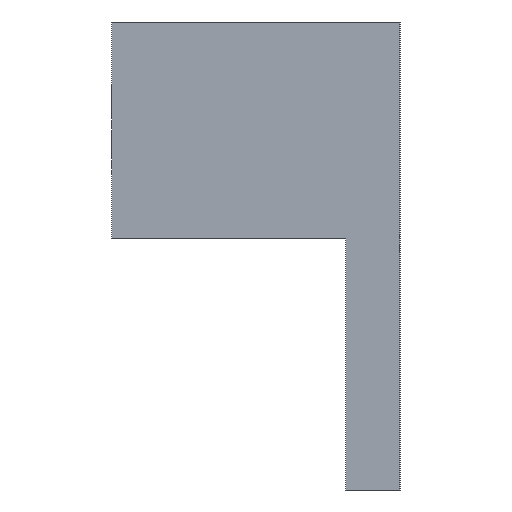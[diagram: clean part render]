
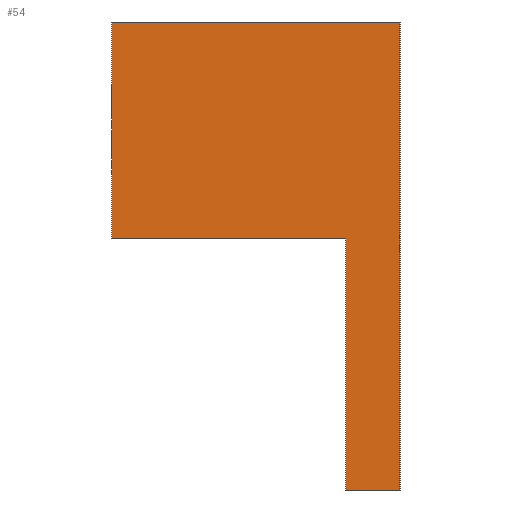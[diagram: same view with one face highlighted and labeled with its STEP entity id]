
A CAD part, left-side view. The second image highlights one B-rep face of the part: STEP entity #54.
In plain terms, the highlighted planar face has unit normal (-1, 0, 0).
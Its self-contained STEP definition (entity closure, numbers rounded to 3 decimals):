
#54 = ADVANCED_FACE( '', ( #108 ), #109, .F. );
#108 = FACE_OUTER_BOUND( '', #155, .T. );
#109 = PLANE( '', #156 );
#155 = EDGE_LOOP( '', ( #232, #233, #234, #235, #236, #237 ) );
#156 = AXIS2_PLACEMENT_3D( '', #238, #239, #240 );
#232 = ORIENTED_EDGE( '', *, *, #262, .F. );
#233 = ORIENTED_EDGE( '', *, *, #275, .F. );
#234 = ORIENTED_EDGE( '', *, *, #257, .F. );
#235 = ORIENTED_EDGE( '', *, *, #267, .F. );
#236 = ORIENTED_EDGE( '', *, *, #278, .F. );
#237 = ORIENTED_EDGE( '', *, *, #282, .F. );
#238 = CARTESIAN_POINT( '', ( -10., 0., 0. ) );
#239 = DIRECTION( '', ( 1., 0., 0. ) );
#240 = DIRECTION( '', ( 0., 0., -1. ) );
#257 = EDGE_CURVE( '', #291, #292, #293, .T. );
#262 = EDGE_CURVE( '', #300, #301, #302, .T. );
#267 = EDGE_CURVE( '', #309, #291, #310, .T. );
#275 = EDGE_CURVE( '', #292, #300, #322, .T. );
#278 = EDGE_CURVE( '', #325, #309, #326, .T. );
#282 = EDGE_CURVE( '', #301, #325, #331, .T. );
#291 = VERTEX_POINT( '', #341 );
#292 = VERTEX_POINT( '', #342 );
#293 = LINE( '', #343, #344 );
#300 = VERTEX_POINT( '', #354 );
#301 = VERTEX_POINT( '', #355 );
#302 = LINE( '', #356, #357 );
#309 = VERTEX_POINT( '', #367 );
#310 = LINE( '', #368, #369 );
#322 = LINE( '', #383, #384 );
#325 = VERTEX_POINT( '', #388 );
#326 = LINE( '', #389, #390 );
#331 = LINE( '', #397, #398 );
#341 = CARTESIAN_POINT( '', ( -10., -13., -6. ) );
#342 = CARTESIAN_POINT( '', ( -10., 0., -6. ) );
#343 = CARTESIAN_POINT( '', ( -10., -13., -6. ) );
#344 = VECTOR( '', #408, 1000. );
#354 = CARTESIAN_POINT( '', ( -10., 0., 6. ) );
#355 = CARTESIAN_POINT( '', ( -10., -16., 6. ) );
#356 = CARTESIAN_POINT( '', ( -10., 0., 6. ) );
#357 = VECTOR( '', #412, 1000. );
#367 = CARTESIAN_POINT( '', ( -10., -13., -20. ) );
#368 = CARTESIAN_POINT( '', ( -10., -13., -20. ) );
#369 = VECTOR( '', #416, 1000. );
#383 = CARTESIAN_POINT( '', ( -10., 0., -6. ) );
#384 = VECTOR( '', #428, 1000. );
#388 = CARTESIAN_POINT( '', ( -10., -16., -20. ) );
#389 = CARTESIAN_POINT( '', ( -10., -16., -20. ) );
#390 = VECTOR( '', #430, 1000. );
#397 = CARTESIAN_POINT( '', ( -10., -16., 6. ) );
#398 = VECTOR( '', #433, 1000. );
#408 = DIRECTION( '', ( 0., 1., 0. ) );
#412 = DIRECTION( '', ( 0., -1., 0. ) );
#416 = DIRECTION( '', ( 0., 0., 1. ) );
#428 = DIRECTION( '', ( 0., 0., 1. ) );
#430 = DIRECTION( '', ( 0., 1., 0. ) );
#433 = DIRECTION( '', ( 0., 0., -1. ) );
